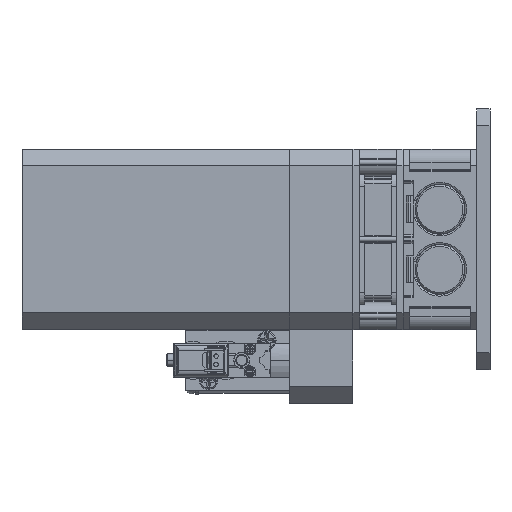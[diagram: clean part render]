
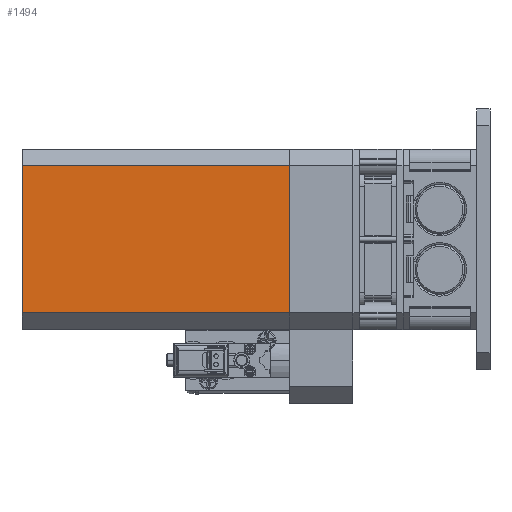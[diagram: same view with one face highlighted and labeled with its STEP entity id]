
A CAD part, left-side view. The second image highlights one B-rep face of the part: STEP entity #1494.
In plain terms, the highlighted planar face has unit normal (-1, 0, 0).
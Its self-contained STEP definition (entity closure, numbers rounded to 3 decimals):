
#1494=ADVANCED_FACE('',(#3681),#3682,.F.);
#3681=FACE_OUTER_BOUND('',#7888,.T.);
#3682=PLANE('',#7889);
#7888=EDGE_LOOP('',(#12622,#12623,#12624,#12625));
#7889=AXIS2_PLACEMENT_3D('',#12626,#12627,#12628);
#12622=ORIENTED_EDGE('',*,*,#28981,.T.);
#12623=ORIENTED_EDGE('',*,*,#28982,.T.);
#12624=ORIENTED_EDGE('',*,*,#28983,.F.);
#12625=ORIENTED_EDGE('',*,*,#28984,.F.);
#12626=CARTESIAN_POINT('',(-32.2,80.0,-22.0));
#12627=DIRECTION('',(1.0,0.0,0.0));
#12628=DIRECTION('',(0.0,1.0,0.0));
#28981=EDGE_CURVE('',#34630,#34631,#34632,.T.);
#28982=EDGE_CURVE('',#34631,#34633,#34634,.T.);
#28983=EDGE_CURVE('',#34635,#34633,#34636,.T.);
#28984=EDGE_CURVE('',#34630,#34635,#34637,.T.);
#34630=VERTEX_POINT('',#43857);
#34631=VERTEX_POINT('',#43858);
#34632=LINE('',#43859,#43860);
#34633=VERTEX_POINT('',#43861);
#34634=LINE('',#43862,#43863);
#34635=VERTEX_POINT('',#43864);
#34636=LINE('',#43865,#43866);
#34637=LINE('',#43867,#43868);
#43857=CARTESIAN_POINT('',(-32.2,80.0,-22.0));
#43858=CARTESIAN_POINT('',(-32.2,0.,-22.0));
#43859=CARTESIAN_POINT('',(-32.2,80.0,-22.0));
#43860=VECTOR('',#57479,1.0);
#43861=CARTESIAN_POINT('',(-32.2,0.,22.0));
#43862=CARTESIAN_POINT('',(-32.2,0.,-22.0));
#43863=VECTOR('',#57480,1.0);
#43864=CARTESIAN_POINT('',(-32.2,80.0,22.0));
#43865=CARTESIAN_POINT('',(-32.2,80.0,22.0));
#43866=VECTOR('',#57481,1.0);
#43867=CARTESIAN_POINT('',(-32.2,80.0,-22.0));
#43868=VECTOR('',#57482,1.0);
#57479=DIRECTION('',(0.0,-1.0,0.0));
#57480=DIRECTION('',(0.0,0.0,1.0));
#57481=DIRECTION('',(0.0,-1.0,0.0));
#57482=DIRECTION('',(0.0,0.0,1.0));
